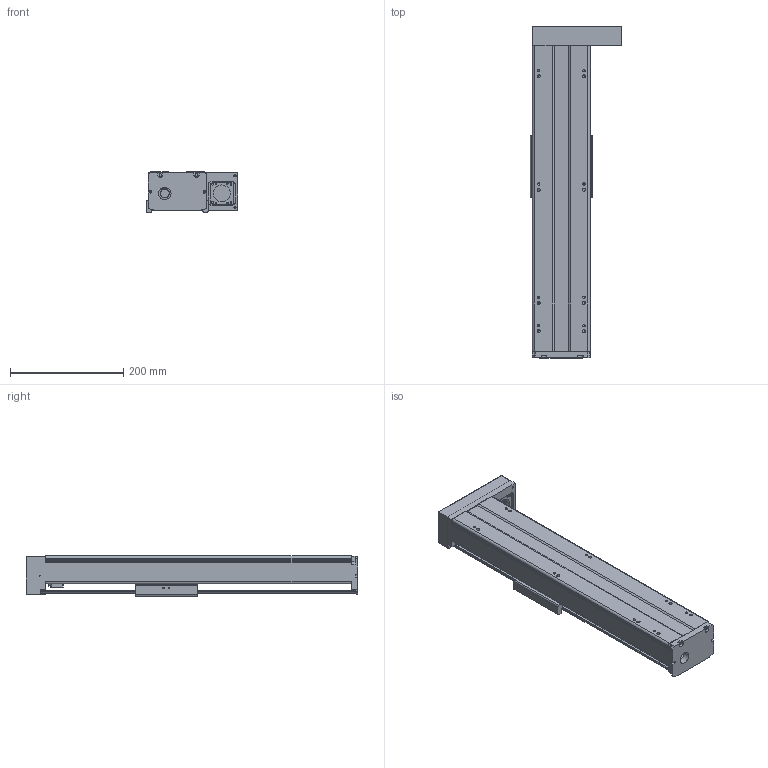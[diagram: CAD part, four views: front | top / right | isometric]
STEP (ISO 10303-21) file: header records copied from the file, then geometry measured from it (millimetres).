
FILE_DESCRIPTION(/* description */ (''),/* implementation_level */ '2;1');
FILE_NAME(/* name */ 'TKA100-FR-350_asm1.stp',/* time_stamp */ '2016-05-17T15:26:26+08:00',/* author */ (''),/* organization */ (''),/* preprocessor_version */ 'ST-DEVELOPER v15',/* originating_system */ 'SIEMENS PLM Software NX 8.5',/* authorisation */ '');
FILE_SCHEMA (('AUTOMOTIVE_DESIGN { 1 0 10303 214 3 1 1 1 }'));
Length unit declared in the file: millimetre
Products named in the file (3): 200-2; 200-1; TKA100-FR-350_asm1
Assembly tree (2 placements, depth 2):
  TKA100-FR-350_asm1
    200-1
    200-2
Bounding box: 162 x 586 x 71 mm (x, y, z)
Volume: 1402812.9 mm3; surface area: 481075.5 mm2
Topology: 2 solids, 16 shells, 788 faces, 2043 edges, 1332 vertices
Faces by surface type: plane 320, cylinder 295, cone 119, torus 28, bspline 26
Full cylindrical faces by diameter (mm): 2.5 x6, 2.6 x8, 3.3 x11, 3.4 x4, 3.8 x8, 4.2 x17, 4.3 x4, 4.5 x6, 5 x2, 5.5 x16, 6.6 x4, 8 x4, 9 x6, 10 x9, 11 x4, 12 x6, 15.3 x1, 16 x1, 22 x1, 24 x1, 28 x2, 30 x1, 33 x1
Entity records: 28780 total; most frequent: CARTESIAN_POINT 10534, DIRECTION 3741, ORIENTED_EDGE 3552, EDGE_CURVE 1776, AXIS2_PLACEMENT_3D 1473, VERTEX_POINT 1254, EDGE_LOOP 1075, LINE 795
